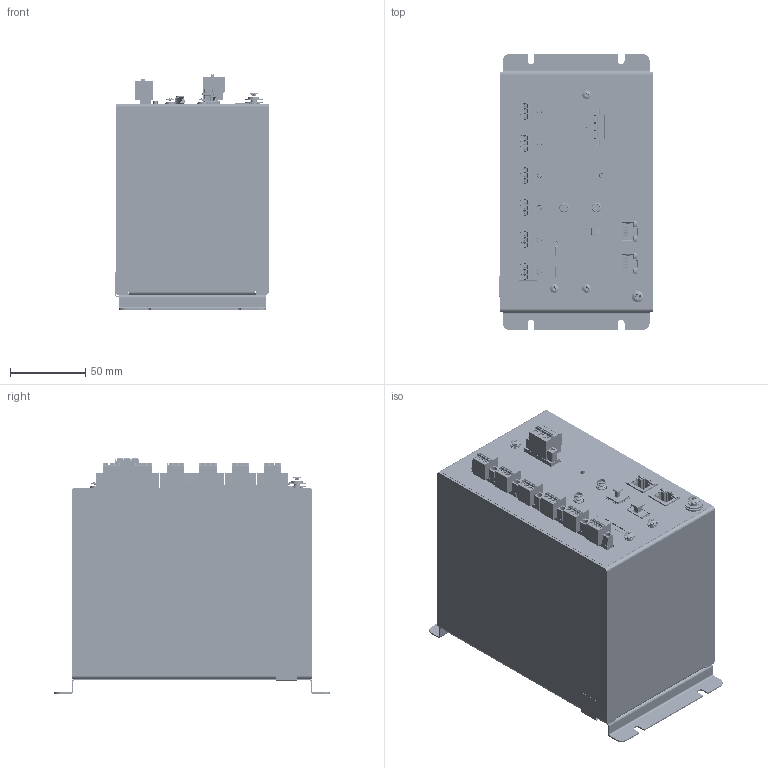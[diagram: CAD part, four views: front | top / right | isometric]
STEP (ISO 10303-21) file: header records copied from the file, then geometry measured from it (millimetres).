
FILE_DESCRIPTION(/* description */ ('','CAx-IF Rec.Pracs.---Representation and Presentation of Product Manufacturing Information (PMI)---4.0---2014-10-13'),/* implementation_level */ '2;1');
FILE_NAME(/* name */ 'D:\WorkIMT\Project IMT\УСПД\v7\3D на сайт\GARA 3D.stp',/* time_stamp */ '2026-03-05T14:15:13+03:00',/* author */ ('admin'),/* organization */ (''),/* preprocessor_version */ 'ST-DEVELOPER v17.2',/* originating_system */ 'Autodesk Inventor 2019',/* authorisation */ '');
FILE_SCHEMA (('AP242_MANAGED_MODEL_BASED_3D_ENGINEERING_MIM_LF { 1 0 10303 442 1 1 4 }'));
Products named in the file (1): MT.GARA.03 (уменьшенная)
Bounding box: 102.2 x 184 x 156.8 mm (x, y, z)
Volume: 143383.5 mm3; surface area: 245226.9 mm2
Topology: 13 solids, 62 shells, 10639 faces, 33524 edges, 21955 vertices
Faces by surface type: plane 7701, cylinder 2174, cone 473, bspline 212, torus 68, sphere 11
Full cylindrical faces by diameter (mm): 0.3 x1, 1 x2, 1.2 x3, 1.27 x2, 1.6 x2, 1.8 x2, 2 x24, 2.05 x126, 2.3 x2, 2.7 x1, 2.75 x3, 2.8 x7, 3 x3, 3.1 x13, 3.2 x15, 3.3 x3, 3.35 x12, 3.4 x7, 3.45 x12, 3.5 x4, 3.65 x1, 3.8 x1, 3.85 x13, 4 x6, 4.3 x2, 4.4 x2, 4.6 x2, 5 x2, 5.1 x2, 5.38 x1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
Entity records: 622132 total; most frequent: CARTESIAN_POINT 310807, ORIENTED_EDGE 66210, DIRECTION 59911, EDGE_CURVE 33518, LINE 23589, VECTOR 23589, VERTEX_POINT 21963, AXIS2_PLACEMENT_3D 18161
